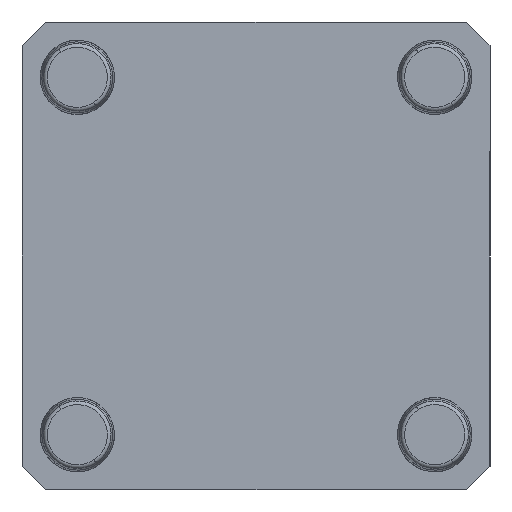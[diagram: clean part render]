
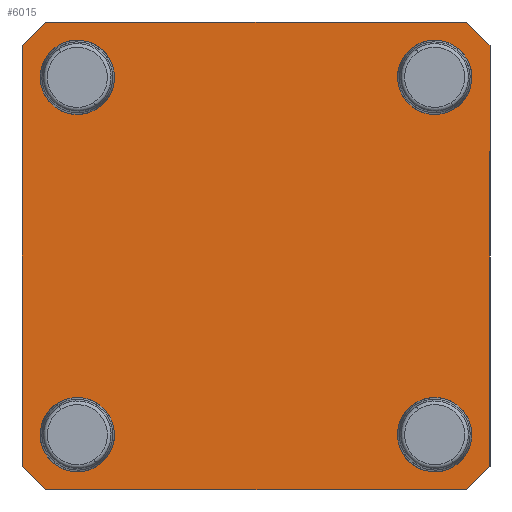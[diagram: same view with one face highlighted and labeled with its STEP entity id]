
A CAD part, front view. The second image highlights one B-rep face of the part: STEP entity #6015.
In plain terms, the highlighted planar face has unit normal (0, -1, 0).
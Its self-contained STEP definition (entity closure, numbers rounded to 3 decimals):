
#33 = DIRECTION ( 'NONE',  ( 0.707, 0., 0.707 ) ) ;
#96 = CARTESIAN_POINT ( 'NONE',  ( 48., 0., -56.01 ) ) ;
#186 = LINE ( 'NONE', #2260, #6170 ) ;
#200 = EDGE_CURVE ( 'NONE', #2503, #5546, #2899, .T. ) ;
#201 = AXIS2_PLACEMENT_3D ( 'NONE', #1865, #4886, #2810 ) ;
#266 = VERTEX_POINT ( 'NONE', #2990 ) ;
#295 = EDGE_CURVE ( 'NONE', #4436, #1049, #759, .T. ) ;
#311 = CARTESIAN_POINT ( 'NONE',  ( 56.515, 0., -62.865 ) ) ;
#326 = CIRCLE ( 'NONE', #201, 8.01 ) ;
#338 = ORIENTED_EDGE ( 'NONE', *, *, #295, .F. ) ;
#522 = EDGE_LOOP ( 'NONE', ( #5947, #2039 ) ) ;
#588 = AXIS2_PLACEMENT_3D ( 'NONE', #5815, #1333, #5373 ) ;
#646 = LINE ( 'NONE', #4484, #4987 ) ;
#651 = VERTEX_POINT ( 'NONE', #4453 ) ;
#685 = ORIENTED_EDGE ( 'NONE', *, *, #2410, .T. ) ;
#735 = VECTOR ( 'NONE', #770, 1000. ) ;
#759 = CIRCLE ( 'NONE', #930, 8.01 ) ;
#764 = VERTEX_POINT ( 'NONE', #1777 ) ;
#770 = DIRECTION ( 'NONE',  ( -0.707, 0., 0.707 ) ) ;
#797 = CIRCLE ( 'NONE', #2648, 8.01 ) ;
#812 = DIRECTION ( 'NONE',  ( 0., -1., 0. ) ) ;
#873 = ORIENTED_EDGE ( 'NONE', *, *, #200, .T. ) ;
#930 = AXIS2_PLACEMENT_3D ( 'NONE', #2970, #958, #4492 ) ;
#950 = VERTEX_POINT ( 'NONE', #5582 ) ;
#958 = DIRECTION ( 'NONE',  ( 0., -1., 0. ) ) ;
#998 = CARTESIAN_POINT ( 'NONE',  ( 0., 0., 0. ) ) ;
#1049 = VERTEX_POINT ( 'NONE', #2386 ) ;
#1078 = ORIENTED_EDGE ( 'NONE', *, *, #6149, .F. ) ;
#1114 = CARTESIAN_POINT ( 'NONE',  ( -62.865, 0., 62.865 ) ) ;
#1160 = DIRECTION ( 'NONE',  ( 1., 0., 0. ) ) ;
#1204 = AXIS2_PLACEMENT_3D ( 'NONE', #3331, #812, #4350 ) ;
#1295 = CARTESIAN_POINT ( 'NONE',  ( 62.865, 0., -62.865 ) ) ;
#1298 = CARTESIAN_POINT ( 'NONE',  ( 56.515, 0., 62.865 ) ) ;
#1333 = DIRECTION ( 'NONE',  ( 0., -1., 0. ) ) ;
#1337 = CARTESIAN_POINT ( 'NONE',  ( 62.865, 0., 56.515 ) ) ;
#1398 = AXIS2_PLACEMENT_3D ( 'NONE', #4132, #3028, #3549 ) ;
#1464 = DIRECTION ( 'NONE',  ( -0.707, 0., -0.707 ) ) ;
#1513 = PLANE ( 'NONE',  #2412 ) ;
#1575 = VERTEX_POINT ( 'NONE', #5117 ) ;
#1729 = CARTESIAN_POINT ( 'NONE',  ( -62.865, 0., -56.515 ) ) ;
#1777 = CARTESIAN_POINT ( 'NONE',  ( -62.865, 0., 56.515 ) ) ;
#1792 = CARTESIAN_POINT ( 'NONE',  ( -48., 0., -39.99 ) ) ;
#1801 = CIRCLE ( 'NONE', #1398, 8.01 ) ;
#1865 = CARTESIAN_POINT ( 'NONE',  ( -48., 0., -48. ) ) ;
#2039 = ORIENTED_EDGE ( 'NONE', *, *, #3711, .F. ) ;
#2063 = CIRCLE ( 'NONE', #2189, 8.01 ) ;
#2065 = VERTEX_POINT ( 'NONE', #1792 ) ;
#2084 = CARTESIAN_POINT ( 'NONE',  ( 62.865, 0., -56.515 ) ) ;
#2122 = EDGE_CURVE ( 'NONE', #1049, #4436, #4664, .T. ) ;
#2175 = LINE ( 'NONE', #4810, #6344 ) ;
#2189 = AXIS2_PLACEMENT_3D ( 'NONE', #2494, #5984, #3447 ) ;
#2205 = VECTOR ( 'NONE', #1160, 1000. ) ;
#2260 = CARTESIAN_POINT ( 'NONE',  ( -62.865, 0., -62.865 ) ) ;
#2263 = EDGE_LOOP ( 'NONE', ( #338, #3396 ) ) ;
#2386 = CARTESIAN_POINT ( 'NONE',  ( 48., 0., -39.99 ) ) ;
#2410 = EDGE_CURVE ( 'NONE', #6297, #5118, #2175, .T. ) ;
#2412 = AXIS2_PLACEMENT_3D ( 'NONE', #998, #6472, #4488 ) ;
#2485 = EDGE_CURVE ( 'NONE', #266, #651, #3681, .T. ) ;
#2494 = CARTESIAN_POINT ( 'NONE',  ( -48., 0., 48. ) ) ;
#2503 = VERTEX_POINT ( 'NONE', #311 ) ;
#2506 = FACE_BOUND ( 'NONE', #522, .T. ) ;
#2586 = EDGE_LOOP ( 'NONE', ( #5315, #6067 ) ) ;
#2607 = ORIENTED_EDGE ( 'NONE', *, *, #5775, .F. ) ;
#2648 = AXIS2_PLACEMENT_3D ( 'NONE', #3985, #6451, #6412 ) ;
#2777 = DIRECTION ( 'NONE',  ( 0.707, 0., -0.707 ) ) ;
#2810 = DIRECTION ( 'NONE',  ( 0., 0., 1. ) ) ;
#2829 = DIRECTION ( 'NONE',  ( 0., 0., 1. ) ) ;
#2899 = LINE ( 'NONE', #4017, #6424 ) ;
#2970 = CARTESIAN_POINT ( 'NONE',  ( 48., 0., -48. ) ) ;
#2990 = CARTESIAN_POINT ( 'NONE',  ( 48., 0., 39.99 ) ) ;
#3016 = EDGE_CURVE ( 'NONE', #6097, #3029, #3596, .T. ) ;
#3028 = DIRECTION ( 'NONE',  ( 0., -1., 0. ) ) ;
#3029 = VERTEX_POINT ( 'NONE', #1298 ) ;
#3117 = EDGE_CURVE ( 'NONE', #2503, #5118, #186, .T. ) ;
#3136 = FACE_BOUND ( 'NONE', #2263, .T. ) ;
#3193 = EDGE_CURVE ( 'NONE', #1575, #950, #4755, .T. ) ;
#3331 = CARTESIAN_POINT ( 'NONE',  ( 48., 0., -48. ) ) ;
#3396 = ORIENTED_EDGE ( 'NONE', *, *, #2122, .F. ) ;
#3447 = DIRECTION ( 'NONE',  ( 0., 0., -1. ) ) ;
#3472 = VECTOR ( 'NONE', #5822, 1000. ) ;
#3534 = ORIENTED_EDGE ( 'NONE', *, *, #3117, .F. ) ;
#3549 = DIRECTION ( 'NONE',  ( 0., 0., 1. ) ) ;
#3554 = LINE ( 'NONE', #1114, #2205 ) ;
#3596 = LINE ( 'NONE', #1337, #735 ) ;
#3630 = FACE_BOUND ( 'NONE', #2586, .T. ) ;
#3641 = EDGE_CURVE ( 'NONE', #6277, #2065, #326, .T. ) ;
#3681 = CIRCLE ( 'NONE', #5811, 8.01 ) ;
#3711 = EDGE_CURVE ( 'NONE', #651, #266, #797, .T. ) ;
#3719 = DIRECTION ( 'NONE',  ( -1., 0., 0. ) ) ;
#3808 = CARTESIAN_POINT ( 'NONE',  ( 48., 0., 48. ) ) ;
#3880 = CARTESIAN_POINT ( 'NONE',  ( -62.865, 0., -62.865 ) ) ;
#3985 = CARTESIAN_POINT ( 'NONE',  ( 48., 0., 48. ) ) ;
#4017 = CARTESIAN_POINT ( 'NONE',  ( 56.515, 0., -62.865 ) ) ;
#4132 = CARTESIAN_POINT ( 'NONE',  ( -48., 0., -48. ) ) ;
#4218 = EDGE_CURVE ( 'NONE', #950, #1575, #2063, .T. ) ;
#4266 = EDGE_CURVE ( 'NONE', #4868, #764, #646, .T. ) ;
#4314 = DIRECTION ( 'NONE',  ( 0., -1., 0. ) ) ;
#4350 = DIRECTION ( 'NONE',  ( 0., 0., -1. ) ) ;
#4436 = VERTEX_POINT ( 'NONE', #96 ) ;
#4453 = CARTESIAN_POINT ( 'NONE',  ( 48., 0., 56.01 ) ) ;
#4484 = CARTESIAN_POINT ( 'NONE',  ( -56.515, 0., 62.865 ) ) ;
#4488 = DIRECTION ( 'NONE',  ( 0., 0., 1. ) ) ;
#4492 = DIRECTION ( 'NONE',  ( 0., 0., -1. ) ) ;
#4595 = ORIENTED_EDGE ( 'NONE', *, *, #3016, .T. ) ;
#4664 = CIRCLE ( 'NONE', #1204, 8.01 ) ;
#4716 = FACE_OUTER_BOUND ( 'NONE', #5422, .T. ) ;
#4755 = CIRCLE ( 'NONE', #588, 8.01 ) ;
#4800 = DIRECTION ( 'NONE',  ( 0., 0., -1. ) ) ;
#4810 = CARTESIAN_POINT ( 'NONE',  ( -62.865, 0., -56.515 ) ) ;
#4866 = EDGE_LOOP ( 'NONE', ( #5573, #1078 ) ) ;
#4868 = VERTEX_POINT ( 'NONE', #5528 ) ;
#4886 = DIRECTION ( 'NONE',  ( 0., -1., 0. ) ) ;
#4987 = VECTOR ( 'NONE', #1464, 1000. ) ;
#5117 = CARTESIAN_POINT ( 'NONE',  ( -48., 0., 39.99 ) ) ;
#5118 = VERTEX_POINT ( 'NONE', #6381 ) ;
#5195 = LINE ( 'NONE', #1295, #6367 ) ;
#5280 = EDGE_CURVE ( 'NONE', #6297, #764, #5917, .T. ) ;
#5315 = ORIENTED_EDGE ( 'NONE', *, *, #3193, .F. ) ;
#5342 = ORIENTED_EDGE ( 'NONE', *, *, #5695, .F. ) ;
#5373 = DIRECTION ( 'NONE',  ( 0., 0., -1. ) ) ;
#5383 = ORIENTED_EDGE ( 'NONE', *, *, #5280, .F. ) ;
#5422 = EDGE_LOOP ( 'NONE', ( #3534, #873, #2607, #4595, #5342, #5784, #5383, #685 ) ) ;
#5528 = CARTESIAN_POINT ( 'NONE',  ( -56.515, 0., 62.865 ) ) ;
#5546 = VERTEX_POINT ( 'NONE', #2084 ) ;
#5573 = ORIENTED_EDGE ( 'NONE', *, *, #3641, .F. ) ;
#5582 = CARTESIAN_POINT ( 'NONE',  ( -48., 0., 56.01 ) ) ;
#5695 = EDGE_CURVE ( 'NONE', #4868, #3029, #3554, .T. ) ;
#5775 = EDGE_CURVE ( 'NONE', #6097, #5546, #5195, .T. ) ;
#5784 = ORIENTED_EDGE ( 'NONE', *, *, #4266, .T. ) ;
#5811 = AXIS2_PLACEMENT_3D ( 'NONE', #3808, #4314, #2829 ) ;
#5815 = CARTESIAN_POINT ( 'NONE',  ( -48., 0., 48. ) ) ;
#5822 = DIRECTION ( 'NONE',  ( 0., 0., 1. ) ) ;
#5917 = LINE ( 'NONE', #3880, #3472 ) ;
#5947 = ORIENTED_EDGE ( 'NONE', *, *, #2485, .F. ) ;
#5984 = DIRECTION ( 'NONE',  ( 0., -1., 0. ) ) ;
#6015 = ADVANCED_FACE ( 'NONE', ( #2506, #6058, #3136, #3630, #4716 ), #1513, .F. ) ;
#6058 = FACE_BOUND ( 'NONE', #4866, .T. ) ;
#6067 = ORIENTED_EDGE ( 'NONE', *, *, #4218, .F. ) ;
#6097 = VERTEX_POINT ( 'NONE', #6138 ) ;
#6138 = CARTESIAN_POINT ( 'NONE',  ( 62.865, 0., 56.515 ) ) ;
#6149 = EDGE_CURVE ( 'NONE', #2065, #6277, #1801, .T. ) ;
#6170 = VECTOR ( 'NONE', #3719, 1000. ) ;
#6238 = CARTESIAN_POINT ( 'NONE',  ( -48., 0., -56.01 ) ) ;
#6277 = VERTEX_POINT ( 'NONE', #6238 ) ;
#6297 = VERTEX_POINT ( 'NONE', #1729 ) ;
#6344 = VECTOR ( 'NONE', #2777, 1000. ) ;
#6367 = VECTOR ( 'NONE', #4800, 1000. ) ;
#6381 = CARTESIAN_POINT ( 'NONE',  ( -56.515, 0., -62.865 ) ) ;
#6412 = DIRECTION ( 'NONE',  ( 0., 0., 1. ) ) ;
#6424 = VECTOR ( 'NONE', #33, 1000. ) ;
#6451 = DIRECTION ( 'NONE',  ( 0., -1., 0. ) ) ;
#6472 = DIRECTION ( 'NONE',  ( 0., 1., 0. ) ) ;
